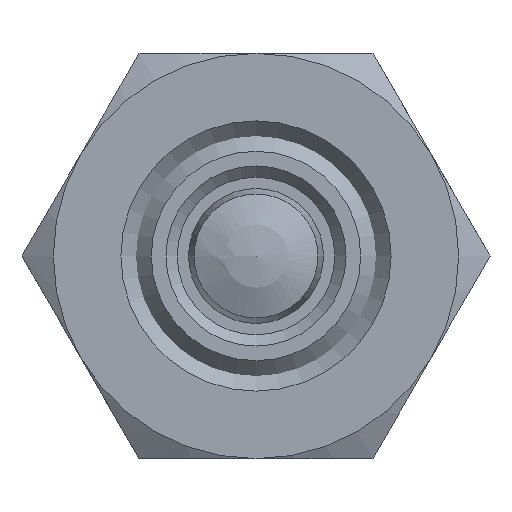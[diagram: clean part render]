
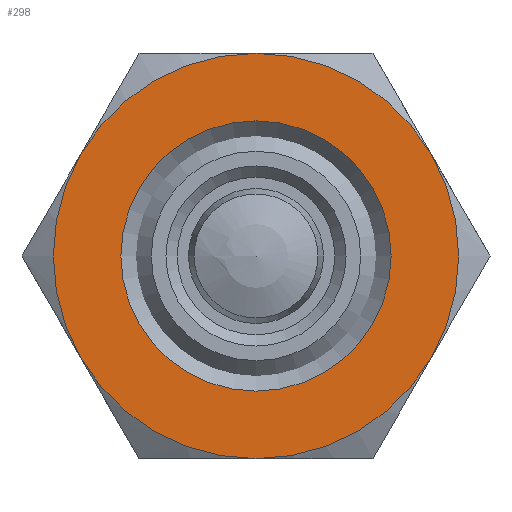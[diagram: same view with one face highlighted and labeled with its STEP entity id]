
A CAD part, front view. The second image highlights one B-rep face of the part: STEP entity #298.
In plain terms, the highlighted planar face has unit normal (0, -1, 0).
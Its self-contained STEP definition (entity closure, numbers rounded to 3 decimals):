
#298 = ADVANCED_FACE( '', ( #445, #446 ), #447, .F. );
#445 = FACE_BOUND( '', #595, .T. );
#446 = FACE_OUTER_BOUND( '', #596, .T. );
#447 = PLANE( '', #597 );
#595 = EDGE_LOOP( '', ( #937 ) );
#596 = EDGE_LOOP( '', ( #938, #939, #940, #941, #942, #943 ) );
#597 = AXIS2_PLACEMENT_3D( '', #944, #945, #946 );
#937 = ORIENTED_EDGE( '', *, *, #1046, .F. );
#938 = ORIENTED_EDGE( '', *, *, #1049, .T. );
#939 = ORIENTED_EDGE( '', *, *, #1050, .T. );
#940 = ORIENTED_EDGE( '', *, *, #1016, .T. );
#941 = ORIENTED_EDGE( '', *, *, #1041, .T. );
#942 = ORIENTED_EDGE( '', *, *, #1042, .T. );
#943 = ORIENTED_EDGE( '', *, *, #1043, .T. );
#944 = CARTESIAN_POINT( '', ( 9., 0., 0. ) );
#945 = DIRECTION( '', ( 0., 1., 0. ) );
#946 = DIRECTION( '', ( 0., 0., 1. ) );
#1016 = EDGE_CURVE( '', #1156, #1157, #1158, .T. );
#1041 = EDGE_CURVE( '', #1157, #1138, #1195, .T. );
#1042 = EDGE_CURVE( '', #1138, #1150, #1196, .T. );
#1043 = EDGE_CURVE( '', #1150, #1197, #1198, .T. );
#1046 = EDGE_CURVE( '', #1201, #1201, #1202, .T. );
#1049 = EDGE_CURVE( '', #1197, #1165, #1207, .T. );
#1050 = EDGE_CURVE( '', #1165, #1156, #1208, .T. );
#1138 = VERTEX_POINT( '', #1427 );
#1150 = VERTEX_POINT( '', #1461 );
#1156 = VERTEX_POINT( '', #1491 );
#1157 = VERTEX_POINT( '', #1492 );
#1158 = CIRCLE( '', #1493, 9. );
#1165 = VERTEX_POINT( '', #1513 );
#1195 = CIRCLE( '', #1613, 9. );
#1196 = CIRCLE( '', #1614, 9. );
#1197 = VERTEX_POINT( '', #1615 );
#1198 = CIRCLE( '', #1616, 9. );
#1201 = VERTEX_POINT( '', #1631 );
#1202 = CIRCLE( '', #1632, 6. );
#1207 = CIRCLE( '', #1637, 9. );
#1208 = CIRCLE( '', #1638, 9. );
#1427 = CARTESIAN_POINT( '', ( -9., 0., 0. ) );
#1461 = CARTESIAN_POINT( '', ( -4.5, 0., -7.794 ) );
#1491 = CARTESIAN_POINT( '', ( 4.5, 0., 7.794 ) );
#1492 = CARTESIAN_POINT( '', ( -4.5, 0., 7.794 ) );
#1493 = AXIS2_PLACEMENT_3D( '', #1729, #1730, #1731 );
#1513 = CARTESIAN_POINT( '', ( 9., 0., 0. ) );
#1613 = AXIS2_PLACEMENT_3D( '', #1756, #1757, #1758 );
#1614 = AXIS2_PLACEMENT_3D( '', #1759, #1760, #1761 );
#1615 = CARTESIAN_POINT( '', ( 4.5, 0., -7.794 ) );
#1616 = AXIS2_PLACEMENT_3D( '', #1762, #1763, #1764 );
#1631 = CARTESIAN_POINT( '', ( 0., 0., -6. ) );
#1632 = AXIS2_PLACEMENT_3D( '', #1765, #1766, #1767 );
#1637 = AXIS2_PLACEMENT_3D( '', #1774, #1775, #1776 );
#1638 = AXIS2_PLACEMENT_3D( '', #1777, #1778, #1779 );
#1729 = CARTESIAN_POINT( '', ( 0., 0., 0. ) );
#1730 = DIRECTION( '', ( 0., -1., 0. ) );
#1731 = DIRECTION( '', ( 0., 0., -1. ) );
#1756 = CARTESIAN_POINT( '', ( 0., 0., 0. ) );
#1757 = DIRECTION( '', ( 0., -1., 0. ) );
#1758 = DIRECTION( '', ( 0., 0., -1. ) );
#1759 = CARTESIAN_POINT( '', ( 0., 0., 0. ) );
#1760 = DIRECTION( '', ( 0., -1., 0. ) );
#1761 = DIRECTION( '', ( 0., 0., -1. ) );
#1762 = CARTESIAN_POINT( '', ( 0., 0., 0. ) );
#1763 = DIRECTION( '', ( 0., -1., 0. ) );
#1764 = DIRECTION( '', ( 0., 0., -1. ) );
#1765 = CARTESIAN_POINT( '', ( 0., 0., 0. ) );
#1766 = DIRECTION( '', ( 0., -1., 0. ) );
#1767 = DIRECTION( '', ( 0., 0., -1. ) );
#1774 = CARTESIAN_POINT( '', ( 0., 0., 0. ) );
#1775 = DIRECTION( '', ( 0., -1., 0. ) );
#1776 = DIRECTION( '', ( 0., 0., -1. ) );
#1777 = CARTESIAN_POINT( '', ( 0., 0., 0. ) );
#1778 = DIRECTION( '', ( 0., -1., 0. ) );
#1779 = DIRECTION( '', ( 0., 0., -1. ) );
